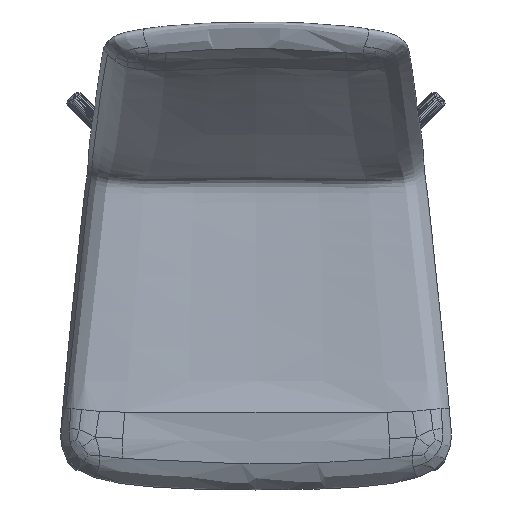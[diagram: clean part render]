
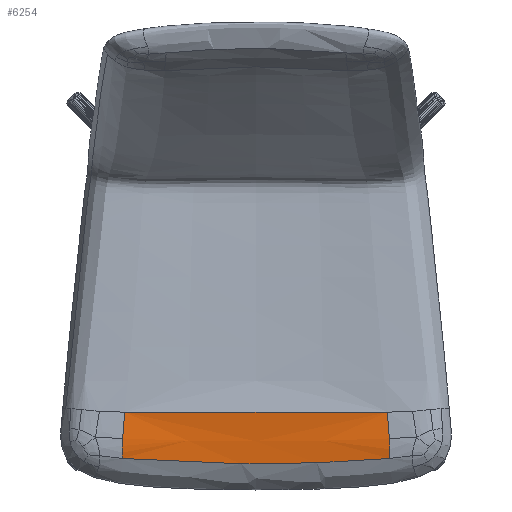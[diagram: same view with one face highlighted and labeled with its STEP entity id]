
A CAD part, top view. The second image highlights one B-rep face of the part: STEP entity #6254.
In plain terms, the highlighted free-form (B-spline) face has degree [3, 3] with [5, 11] control points.
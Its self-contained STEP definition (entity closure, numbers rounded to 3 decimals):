
#6254=ADVANCED_FACE('',(#13495),#78081,.T.);
#13495=FACE_OUTER_BOUND('',#20736,.T.);
#20736=EDGE_LOOP('',(#28214,#28215,#28216,#28217,#28218,#28219));
#28214=ORIENTED_EDGE('',*,*,#51000,.F.);
#28215=ORIENTED_EDGE('',*,*,#50994,.F.);
#28216=ORIENTED_EDGE('',*,*,#51042,.T.);
#28217=ORIENTED_EDGE('',*,*,#50909,.F.);
#28218=ORIENTED_EDGE('',*,*,#50915,.F.);
#28219=ORIENTED_EDGE('',*,*,#51043,.T.);
#50909=EDGE_CURVE('',#73814,#73811,#62380,.T.);
#50915=EDGE_CURVE('',#73817,#73814,#62386,.T.);
#50994=EDGE_CURVE('',#73871,#73872,#62465,.T.);
#51000=EDGE_CURVE('',#73872,#73875,#62471,.T.);
#51042=EDGE_CURVE('',#73871,#73811,#62513,.T.);
#51043=EDGE_CURVE('',#73817,#73875,#62514,.T.);
#62380=B_SPLINE_CURVE_WITH_KNOTS('',3,(#98180,#98181,#98182,#98183),
 .UNSPECIFIED.,.F.,.F.,(4,4),(-2.,0.),.UNSPECIFIED.);
#62386=B_SPLINE_CURVE_WITH_KNOTS('',3,(#98215,#98216,#98217,#98218),
 .UNSPECIFIED.,.F.,.F.,(4,4),(0.,40.421),.UNSPECIFIED.);
#62465=B_SPLINE_CURVE_WITH_KNOTS('',3,(#98658,#98659,#98660,#98661),
 .UNSPECIFIED.,.F.,.F.,(4,4),(0.,31.049),.UNSPECIFIED.);
#62471=B_SPLINE_CURVE_WITH_KNOTS('',3,(#98691,#98692,#98693,#98694),
 .UNSPECIFIED.,.F.,.F.,(4,4),(0.,40.421),.UNSPECIFIED.);
#62513=B_SPLINE_CURVE_WITH_KNOTS('',3,(#98926,#98927,#98928,#98929,#98930,
#98931,#98932,#98933,#98934,#98935,#98936),.UNSPECIFIED.,.F.,.F.,(4,1,1,
1,1,1,1,1,4),(0.,1.,2.,3.,4.,5.,6.,7.,8.),.UNSPECIFIED.);
#62514=B_SPLINE_CURVE_WITH_KNOTS('',3,(#98937,#98938,#98939,#98940,#98941,
#98942,#98943,#98944,#98945,#98946,#98947),.UNSPECIFIED.,.F.,.F.,(4,1,1,
1,1,1,1,1,4),(-8.,-7.,-6.,-5.,-4.,-3.,-2.,-1.,0.),.UNSPECIFIED.);
#73811=VERTEX_POINT('',#97753);
#73814=VERTEX_POINT('',#97756);
#73817=VERTEX_POINT('',#97759);
#73871=VERTEX_POINT('',#97813);
#73872=VERTEX_POINT('',#97814);
#73875=VERTEX_POINT('',#97817);
#78081=B_SPLINE_SURFACE_WITH_KNOTS('',3,3,((#95580,#95581,#95582,#95583,
#95584,#95585,#95586,#95587,#95588,#95589,#95590),(#95591,#95592,#95593,
#95594,#95595,#95596,#95597,#95598,#95599,#95600,#95601),(#95602,#95603,
#95604,#95605,#95606,#95607,#95608,#95609,#95610,#95611,#95612),(#95613,
#95614,#95615,#95616,#95617,#95618,#95619,#95620,#95621,#95622,#95623),
(#95624,#95625,#95626,#95627,#95628,#95629,#95630,#95631,#95632,#95633,
#95634)),.UNSPECIFIED.,.F.,.F.,.F.,(4,1,4),(4,1,1,1,1,1,1,1,4),(0.,1.,2.),
(0.,1.,2.,3.,4.,5.,6.,7.,8.),.UNSPECIFIED.);
#95580=CARTESIAN_POINT('',(2064.531,-1296.968,584.504));
#95581=CARTESIAN_POINT('',(2078.966,-1297.191,583.669));
#95582=CARTESIAN_POINT('',(2110.445,-1297.556,581.811));
#95583=CARTESIAN_POINT('',(2161.801,-1297.92,579.279));
#95584=CARTESIAN_POINT('',(2213.603,-1298.161,577.82));
#95585=CARTESIAN_POINT('',(2265.628,-1298.251,577.359));
#95586=CARTESIAN_POINT('',(2317.653,-1298.161,577.82));
#95587=CARTESIAN_POINT('',(2369.455,-1297.92,579.279));
#95588=CARTESIAN_POINT('',(2420.812,-1297.556,581.811));
#95589=CARTESIAN_POINT('',(2452.291,-1297.191,583.669));
#95590=CARTESIAN_POINT('',(2466.726,-1296.968,584.504));
#95591=CARTESIAN_POINT('',(2063.135,-1311.73,585.511));
#95592=CARTESIAN_POINT('',(2077.75,-1312.087,584.687));
#95593=CARTESIAN_POINT('',(2109.669,-1312.681,582.84));
#95594=CARTESIAN_POINT('',(2161.607,-1313.291,580.306));
#95595=CARTESIAN_POINT('',(2213.603,-1313.688,578.839));
#95596=CARTESIAN_POINT('',(2265.628,-1313.834,578.372));
#95597=CARTESIAN_POINT('',(2317.653,-1313.688,578.839));
#95598=CARTESIAN_POINT('',(2369.649,-1313.291,580.306));
#95599=CARTESIAN_POINT('',(2421.588,-1312.681,582.84));
#95600=CARTESIAN_POINT('',(2453.506,-1312.087,584.687));
#95601=CARTESIAN_POINT('',(2468.121,-1311.73,585.511));
#95602=CARTESIAN_POINT('',(2060.624,-1338.799,587.141));
#95603=CARTESIAN_POINT('',(2075.603,-1339.553,586.318));
#95604=CARTESIAN_POINT('',(2108.331,-1340.833,584.451));
#95605=CARTESIAN_POINT('',(2161.272,-1342.176,581.861));
#95606=CARTESIAN_POINT('',(2213.603,-1343.043,580.358));
#95607=CARTESIAN_POINT('',(2265.628,-1343.358,579.878));
#95608=CARTESIAN_POINT('',(2317.653,-1343.043,580.358));
#95609=CARTESIAN_POINT('',(2369.984,-1342.176,581.861));
#95610=CARTESIAN_POINT('',(2422.925,-1340.833,584.451));
#95611=CARTESIAN_POINT('',(2455.653,-1339.553,586.318));
#95612=CARTESIAN_POINT('',(2470.633,-1338.799,587.141));
#95613=CARTESIAN_POINT('',(2061.035,-1359.449,585.535));
#95614=CARTESIAN_POINT('',(2075.149,-1360.745,584.751));
#95615=CARTESIAN_POINT('',(2107.342,-1362.883,582.861));
#95616=CARTESIAN_POINT('',(2161.025,-1365.003,580.123));
#95617=CARTESIAN_POINT('',(2213.603,-1366.308,578.54));
#95618=CARTESIAN_POINT('',(2265.628,-1366.757,578.038));
#95619=CARTESIAN_POINT('',(2317.654,-1366.308,578.54));
#95620=CARTESIAN_POINT('',(2370.231,-1365.003,580.123));
#95621=CARTESIAN_POINT('',(2423.914,-1362.883,582.861));
#95622=CARTESIAN_POINT('',(2456.107,-1360.745,584.751));
#95623=CARTESIAN_POINT('',(2470.222,-1359.449,585.535));
#95624=CARTESIAN_POINT('',(2060.862,-1367.932,583.399));
#95625=CARTESIAN_POINT('',(2074.778,-1369.437,582.617));
#95626=CARTESIAN_POINT('',(2106.915,-1371.907,580.69));
#95627=CARTESIAN_POINT('',(2160.918,-1374.314,577.856));
#95628=CARTESIAN_POINT('',(2213.603,-1375.745,576.222));
#95629=CARTESIAN_POINT('',(2265.628,-1376.216,575.705));
#95630=CARTESIAN_POINT('',(2317.654,-1375.745,576.222));
#95631=CARTESIAN_POINT('',(2370.338,-1374.314,577.856));
#95632=CARTESIAN_POINT('',(2424.341,-1371.907,580.69));
#95633=CARTESIAN_POINT('',(2456.479,-1369.437,582.617));
#95634=CARTESIAN_POINT('',(2470.395,-1367.932,583.399));
#97753=CARTESIAN_POINT('',(2470.395,-1367.932,583.399));
#97756=CARTESIAN_POINT('',(2469.902,-1337.194,586.332));
#97759=CARTESIAN_POINT('',(2466.726,-1296.968,584.504));
#97813=CARTESIAN_POINT('',(2060.862,-1367.932,583.399));
#97814=CARTESIAN_POINT('',(2061.355,-1337.194,586.332));
#97817=CARTESIAN_POINT('',(2064.531,-1296.968,584.504));
#98180=CARTESIAN_POINT('',(2469.902,-1337.194,586.332));
#98181=CARTESIAN_POINT('',(2470.427,-1349.124,586.338));
#98182=CARTESIAN_POINT('',(2470.222,-1359.449,585.535));
#98183=CARTESIAN_POINT('',(2470.395,-1367.932,583.399));
#98215=CARTESIAN_POINT('',(2466.726,-1296.968,584.504));
#98216=CARTESIAN_POINT('',(2468.121,-1311.73,585.511));
#98217=CARTESIAN_POINT('',(2469.377,-1325.265,586.326));
#98218=CARTESIAN_POINT('',(2469.902,-1337.194,586.332));
#98658=CARTESIAN_POINT('',(2060.862,-1367.932,583.399));
#98659=CARTESIAN_POINT('',(2061.035,-1359.449,585.535));
#98660=CARTESIAN_POINT('',(2060.829,-1349.124,586.338));
#98661=CARTESIAN_POINT('',(2061.355,-1337.194,586.332));
#98691=CARTESIAN_POINT('',(2061.355,-1337.194,586.332));
#98692=CARTESIAN_POINT('',(2061.88,-1325.265,586.326));
#98693=CARTESIAN_POINT('',(2063.135,-1311.73,585.511));
#98694=CARTESIAN_POINT('',(2064.531,-1296.968,584.504));
#98926=CARTESIAN_POINT('',(2060.862,-1367.932,583.399));
#98927=CARTESIAN_POINT('',(2074.778,-1369.437,582.617));
#98928=CARTESIAN_POINT('',(2106.915,-1371.907,580.69));
#98929=CARTESIAN_POINT('',(2160.918,-1374.314,577.856));
#98930=CARTESIAN_POINT('',(2213.603,-1375.745,576.222));
#98931=CARTESIAN_POINT('',(2265.628,-1376.216,575.705));
#98932=CARTESIAN_POINT('',(2317.654,-1375.745,576.222));
#98933=CARTESIAN_POINT('',(2370.338,-1374.314,577.856));
#98934=CARTESIAN_POINT('',(2424.341,-1371.907,580.69));
#98935=CARTESIAN_POINT('',(2456.479,-1369.437,582.617));
#98936=CARTESIAN_POINT('',(2470.395,-1367.932,583.399));
#98937=CARTESIAN_POINT('',(2466.726,-1296.968,584.504));
#98938=CARTESIAN_POINT('',(2452.291,-1297.191,583.669));
#98939=CARTESIAN_POINT('',(2420.812,-1297.556,581.811));
#98940=CARTESIAN_POINT('',(2369.455,-1297.92,579.279));
#98941=CARTESIAN_POINT('',(2317.653,-1298.161,577.82));
#98942=CARTESIAN_POINT('',(2265.628,-1298.251,577.359));
#98943=CARTESIAN_POINT('',(2213.603,-1298.161,577.82));
#98944=CARTESIAN_POINT('',(2161.801,-1297.92,579.279));
#98945=CARTESIAN_POINT('',(2110.445,-1297.556,581.811));
#98946=CARTESIAN_POINT('',(2078.966,-1297.191,583.669));
#98947=CARTESIAN_POINT('',(2064.531,-1296.968,584.504));
